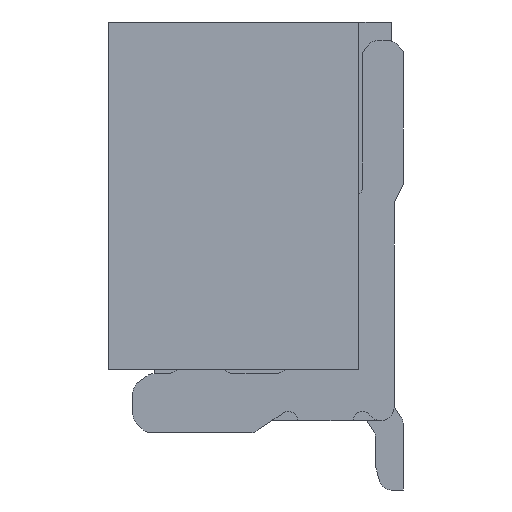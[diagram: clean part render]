
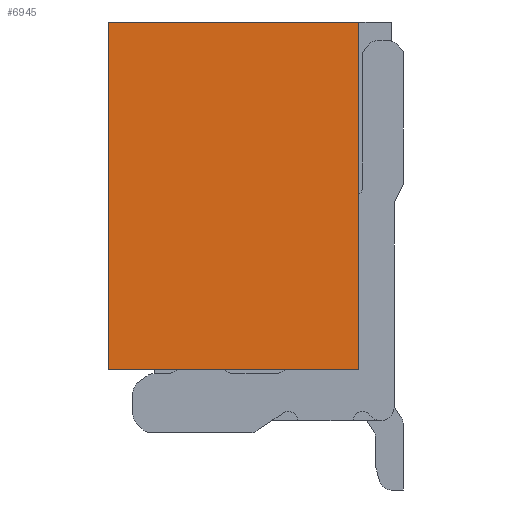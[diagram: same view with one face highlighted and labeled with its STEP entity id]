
A CAD part, left-side view. The second image highlights one B-rep face of the part: STEP entity #6945.
In plain terms, the highlighted planar face has unit normal (-1, 0, 0).
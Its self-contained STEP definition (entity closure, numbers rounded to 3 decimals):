
#343 = DIRECTION ( 'NONE',  ( 0., -1., 0. ) ) ;
#831 = VECTOR ( 'NONE', #10784, 1000. ) ;
#856 = VECTOR ( 'NONE', #1991, 1000. ) ;
#1991 = DIRECTION ( 'NONE',  ( 0., -1., 0. ) ) ;
#2138 = EDGE_CURVE ( 'NONE', #5627, #9419, #14645, .T. ) ;
#3023 = VECTOR ( 'NONE', #343, 1000. ) ;
#5627 = VERTEX_POINT ( 'NONE', #15149 ) ;
#5834 = CARTESIAN_POINT ( 'NONE',  ( -5.175, -1.175, 2.15 ) ) ;
#6013 = ORIENTED_EDGE ( 'NONE', *, *, #18981, .F. ) ;
#6402 = CARTESIAN_POINT ( 'NONE',  ( -5.175, 1.525, 2.15 ) ) ;
#6458 = DIRECTION ( 'NONE',  ( -1., 0., 0. ) ) ;
#6945 = ADVANCED_FACE ( 'NONE', ( #8147 ), #10746, .T. ) ;
#7065 = CARTESIAN_POINT ( 'NONE',  ( -5.175, -1.175, -1.6 ) ) ;
#7598 = LINE ( 'NONE', #14483, #831 ) ;
#7816 = AXIS2_PLACEMENT_3D ( 'NONE', #14609, #6458, #12908 ) ;
#8147 = FACE_OUTER_BOUND ( 'NONE', #11722, .T. ) ;
#8224 = VECTOR ( 'NONE', #12181, 1000. ) ;
#9419 = VERTEX_POINT ( 'NONE', #7065 ) ;
#10603 = LINE ( 'NONE', #5834, #8224 ) ;
#10746 = PLANE ( 'NONE',  #7816 ) ;
#10784 = DIRECTION ( 'NONE',  ( 0., 0., 1. ) ) ;
#11241 = ORIENTED_EDGE ( 'NONE', *, *, #16785, .F. ) ;
#11722 = EDGE_LOOP ( 'NONE', ( #14234, #6013, #18696, #11241 ) ) ;
#12181 = DIRECTION ( 'NONE',  ( 0., 0., -1. ) ) ;
#12908 = DIRECTION ( 'NONE',  ( 0., 0., 1. ) ) ;
#13163 = CARTESIAN_POINT ( 'NONE',  ( -5.175, 1.525, -1.6 ) ) ;
#13564 = CARTESIAN_POINT ( 'NONE',  ( -5.175, -1.175, 2.15 ) ) ;
#14234 = ORIENTED_EDGE ( 'NONE', *, *, #19965, .F. ) ;
#14483 = CARTESIAN_POINT ( 'NONE',  ( -5.175, 1.525, -1.6 ) ) ;
#14536 = VERTEX_POINT ( 'NONE', #6402 ) ;
#14609 = CARTESIAN_POINT ( 'NONE',  ( -5.175, 1.525, -2.15 ) ) ;
#14645 = LINE ( 'NONE', #13163, #3023 ) ;
#15149 = CARTESIAN_POINT ( 'NONE',  ( -5.175, 1.525, -1.6 ) ) ;
#15841 = VERTEX_POINT ( 'NONE', #13564 ) ;
#16487 = CARTESIAN_POINT ( 'NONE',  ( -5.175, 1.525, 2.15 ) ) ;
#16785 = EDGE_CURVE ( 'NONE', #15841, #9419, #10603, .T. ) ;
#18696 = ORIENTED_EDGE ( 'NONE', *, *, #2138, .T. ) ;
#18981 = EDGE_CURVE ( 'NONE', #5627, #14536, #7598, .T. ) ;
#19775 = LINE ( 'NONE', #16487, #856 ) ;
#19965 = EDGE_CURVE ( 'NONE', #14536, #15841, #19775, .T. ) ;
